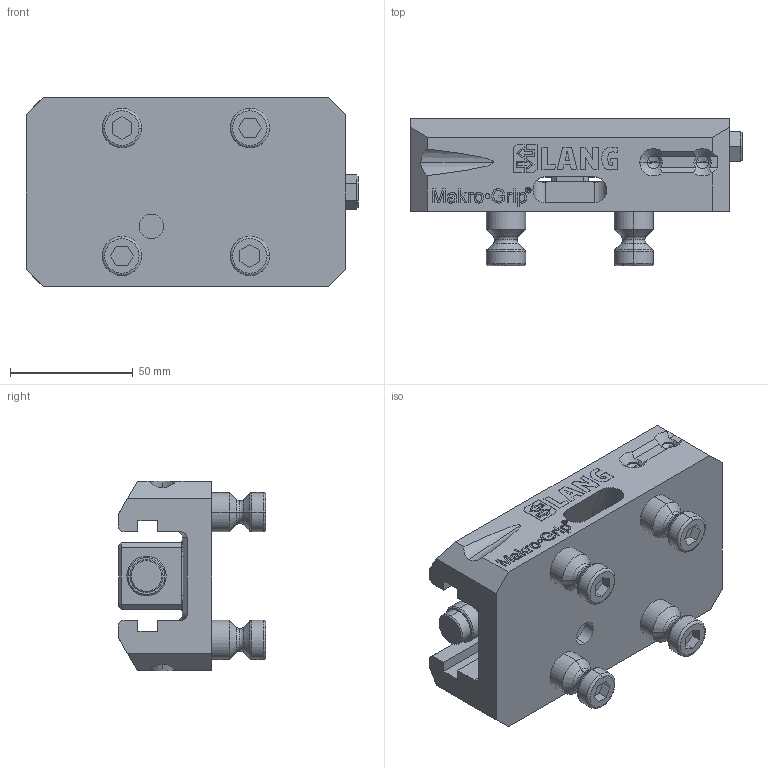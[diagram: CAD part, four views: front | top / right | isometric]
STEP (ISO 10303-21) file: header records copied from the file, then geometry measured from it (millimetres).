
FILE_DESCRIPTION (( 'STEP AP214' ), '1' );
FILE_NAME ('40120-46.STEP', '2024-12-11T08:22:52', ( '' ), ( '' ), 'SwSTEP 2.0', 'SolidWorks 2021', '' );
FILE_SCHEMA (( 'AUTOMOTIVE_DESIGN' ));
Length unit declared in the file: millimetre
Products named in the file (1): 40120-46
Bounding box: 135 x 60 x 77.2 mm (x, y, z)
Volume: 258905.4 mm3; surface area: 63978.8 mm2
Topology: 48 solids, 48 shells, 899 faces, 2256 edges, 1458 vertices
Faces by surface type: plane 541, bspline 192, cylinder 76, cone 58, torus 32
Entity records: 44862 total; most frequent: CARTESIAN_POINT 14282, ORIENTED_EDGE 4480, DIRECTION 3450, EDGE_CURVE 2240, VECTOR 1574, LINE 1574, VERTEX_POINT 1458, UNCERTAINTY_MEASURE_WITH_UNIT 949
